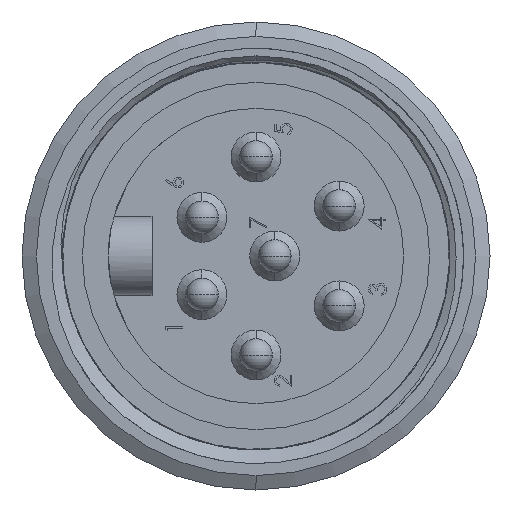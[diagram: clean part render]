
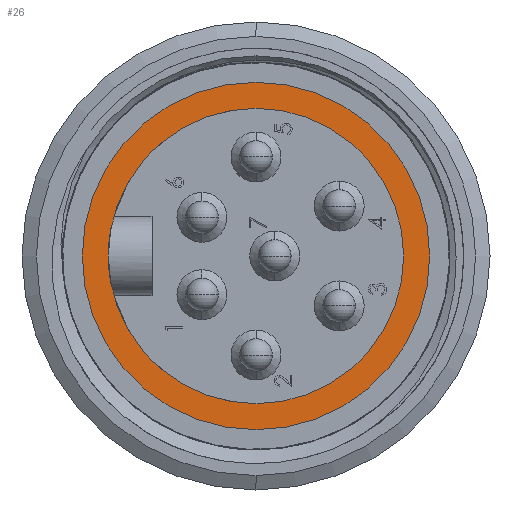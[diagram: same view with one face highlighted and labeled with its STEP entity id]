
A CAD part, left-side view. The second image highlights one B-rep face of the part: STEP entity #26.
In plain terms, the highlighted planar face has unit normal (-1, 0, 0).
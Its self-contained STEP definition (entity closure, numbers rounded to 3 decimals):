
#26 = ADVANCED_FACE ( 'NONE', ( #4161, #4146 ), #4163, .F. ) ;
#674 = CARTESIAN_POINT ( 'NONE',  ( 0., 0., 0. ) ) ;
#675 = DIRECTION ( 'NONE',  ( -1., 0., 0. ) ) ;
#676 = DIRECTION ( 'NONE',  ( 0., 0., 1. ) ) ;
#3452 = VERTEX_POINT ( 'NONE', #8714 ) ;
#3457 = VERTEX_POINT ( 'NONE', #8719 ) ;
#3733 = VERTEX_POINT ( 'NONE', #14356 ) ;
#4146 = FACE_OUTER_BOUND ( 'NONE', #9014, .T. ) ;
#4161 = FACE_BOUND ( 'NONE', #9009, .T. ) ;
#4163 = PLANE ( 'NONE',  #7670 ) ;
#4172 = CARTESIAN_POINT ( 'NONE',  ( 0., 9.017, 0. ) ) ;
#4173 = DIRECTION ( 'NONE',  ( 1., 0., 0. ) ) ;
#4174 = DIRECTION ( 'NONE',  ( 0., 0., -1. ) ) ;
#5722 = CIRCLE ( 'NONE', #5724, 9.017 ) ;
#5724 = AXIS2_PLACEMENT_3D ( 'NONE', #16503, #16504, #16505 ) ;
#5938 = EDGE_CURVE ( 'NONE', #3733, #7659, #5722, .T. ) ;
#7659 = VERTEX_POINT ( 'NONE', #15105 ) ;
#7670 = AXIS2_PLACEMENT_3D ( 'NONE', #4172, #4173, #4174 ) ;
#8714 = CARTESIAN_POINT ( 'NONE',  ( 0., 0., -10.605 ) ) ;
#8719 = CARTESIAN_POINT ( 'NONE',  ( 0., 0., 10.605 ) ) ;
#9009 = EDGE_LOOP ( 'NONE', ( #12181, #12182 ) ) ;
#9014 = EDGE_LOOP ( 'NONE', ( #12183, #12184 ) ) ;
#9149 = EDGE_CURVE ( 'NONE', #3452, #3457, #16795, .T. ) ;
#9188 = EDGE_CURVE ( 'NONE', #7659, #3733, #16846, .T. ) ;
#10758 = CARTESIAN_POINT ( 'NONE',  ( 0., 0., 0. ) ) ;
#10759 = DIRECTION ( 'NONE',  ( -1., 0., 0. ) ) ;
#10760 = DIRECTION ( 'NONE',  ( 0., 0., 1. ) ) ;
#12181 = ORIENTED_EDGE ( 'NONE', *, *, #9188, .F. ) ;
#12182 = ORIENTED_EDGE ( 'NONE', *, *, #5938, .F. ) ;
#12183 = ORIENTED_EDGE ( 'NONE', *, *, #16023, .T. ) ;
#12184 = ORIENTED_EDGE ( 'NONE', *, *, #9149, .T. ) ;
#12847 = CIRCLE ( 'NONE', #12850, 10.605 ) ;
#12850 = AXIS2_PLACEMENT_3D ( 'NONE', #674, #675, #676 ) ;
#14356 = CARTESIAN_POINT ( 'NONE',  ( 0., 0., -9.017 ) ) ;
#15105 = CARTESIAN_POINT ( 'NONE',  ( 0., 0., 9.017 ) ) ;
#16023 = EDGE_CURVE ( 'NONE', #3457, #3452, #12847, .T. ) ;
#16233 = CARTESIAN_POINT ( 'NONE',  ( 0., 0., 0. ) ) ;
#16234 = DIRECTION ( 'NONE',  ( -1., 0., 0. ) ) ;
#16235 = DIRECTION ( 'NONE',  ( 0., 0., 1. ) ) ;
#16503 = CARTESIAN_POINT ( 'NONE',  ( 0., 0., 0. ) ) ;
#16504 = DIRECTION ( 'NONE',  ( -1., 0., 0. ) ) ;
#16505 = DIRECTION ( 'NONE',  ( 0., 0., 1. ) ) ;
#16794 = AXIS2_PLACEMENT_3D ( 'NONE', #16233, #16234, #16235 ) ;
#16795 = CIRCLE ( 'NONE', #16794, 10.605 ) ;
#16846 = CIRCLE ( 'NONE', #16847, 9.017 ) ;
#16847 = AXIS2_PLACEMENT_3D ( 'NONE', #10758, #10759, #10760 ) ;
